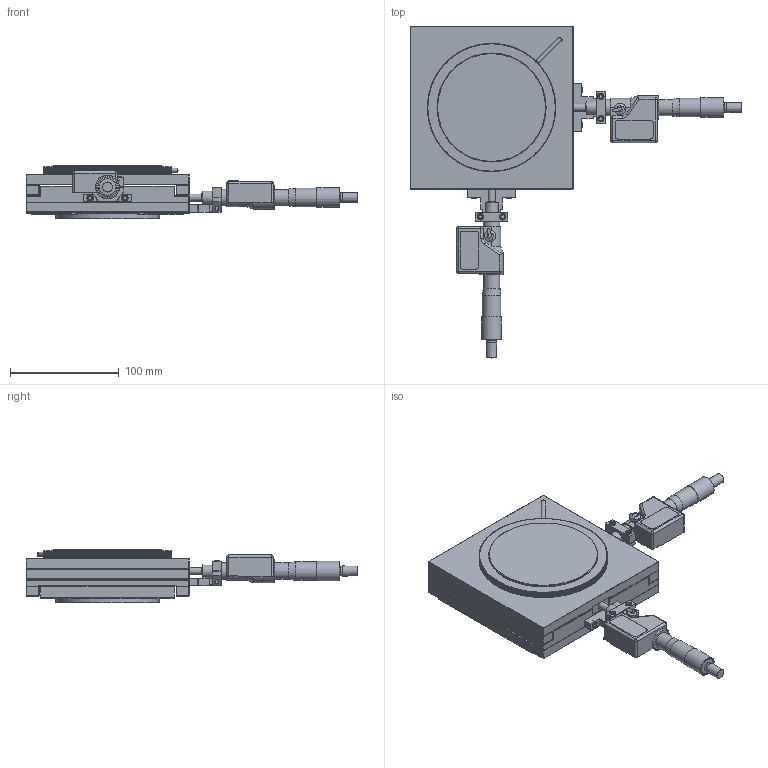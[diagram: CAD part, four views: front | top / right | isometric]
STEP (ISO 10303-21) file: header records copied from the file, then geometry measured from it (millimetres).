
FILE_DESCRIPTION(('STEP AP214'),'1');
FILE_NAME('TD100-25EMH_.stp','2025-01-10T07:42:16',(' '),(' '),'Spatial InterOp 3D',' ',' ');
FILE_SCHEMA(('AUTOMOTIVE_DESIGN { 1 0 10303 214 1 1 1 1 }'));
Length unit declared in the file: metre
Products named in the file (3): TD100-25EMH_; Component1; Component2
Assembly tree (2 placements, depth 2):
  TD100-25EMH_
    Component1
    Component2
Bounding box: 305.4 x 305.4 x 49 mm (x, y, z)
Volume: 713918.3 mm3; surface area: 194048.4 mm2
Topology: 2 solids, 11 shells, 3065 faces, 7368 edges, 4845 vertices
Faces by surface type: plane 2875, cylinder 130, cone 31, torus 20, sphere 9
Full cylindrical faces by diameter (mm): 3 x16, 3.5 x8, 4 x3, 5.2 x8, 6 x10, 6.5 x2, 7 x2, 8 x2, 8.8 x2, 11.1 x2, 12 x2, 14.8 x2, 15 x2, 17 x2, 18 x2, 21.9 x2, 90 x2, 94 x2, 95 x1, 100 x2, 108 x3, 114 x1, 117.6 x1
Entity records: 111892 total; most frequent: CARTESIAN_POINT 15310, DIRECTION 14605, ORIENTED_EDGE 14368, EDGE_CURVE 7184, LINE 5807, VECTOR 5807, VERTEX_POINT 4789, AXIS2_PLACEMENT_3D 4399
